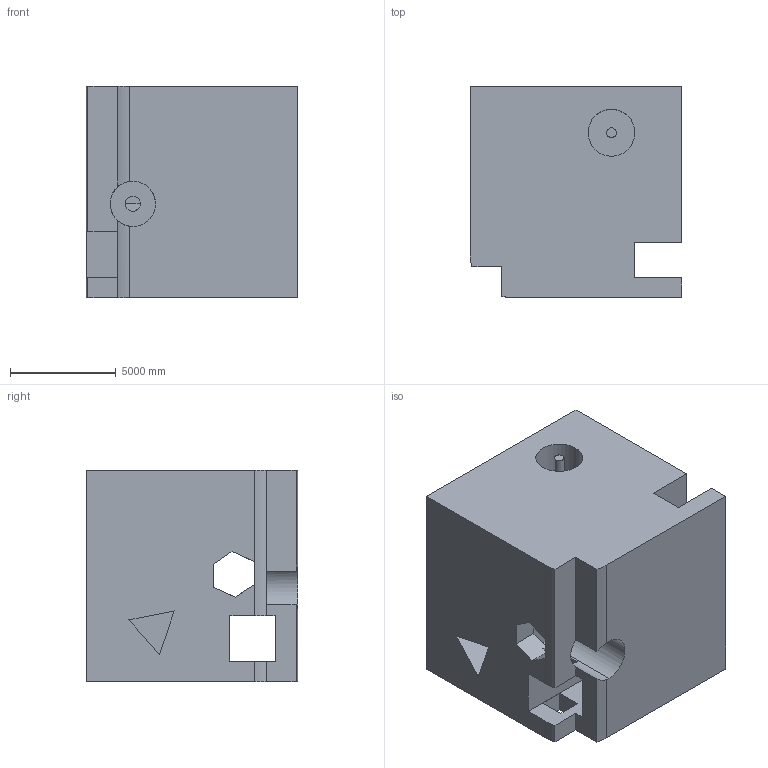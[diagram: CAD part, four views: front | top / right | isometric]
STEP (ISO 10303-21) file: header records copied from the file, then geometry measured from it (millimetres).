
FILE_DESCRIPTION (( 'STEP AP203' ), '1' );
FILE_NAME ('1866.STEP', '2022-08-19T13:42:14', ( 'user' ), ( '' ), 'SwSTEP 2.0', 'SolidWorks 2021', '' );
FILE_SCHEMA (( 'CONFIG_CONTROL_DESIGN' ));
Length unit declared in the file: centimetre
Products named in the file (1): 1866
Bounding box: 10000 x 10000 x 10000 mm (x, y, z)
Volume: 834306344913.3 mm3; surface area: 809184218 mm2
Topology: 1 solids, 1 shells, 58 faces, 174 edges, 116 vertices
Faces by surface type: plane 46, cylinder 12
Entity records: 2085 total; most frequent: CARTESIAN_POINT 411, ORIENTED_EDGE 348, DIRECTION 314, EDGE_CURVE 174, VECTOR 136, LINE 136, VERTEX_POINT 116, AXIS2_PLACEMENT_3D 89
